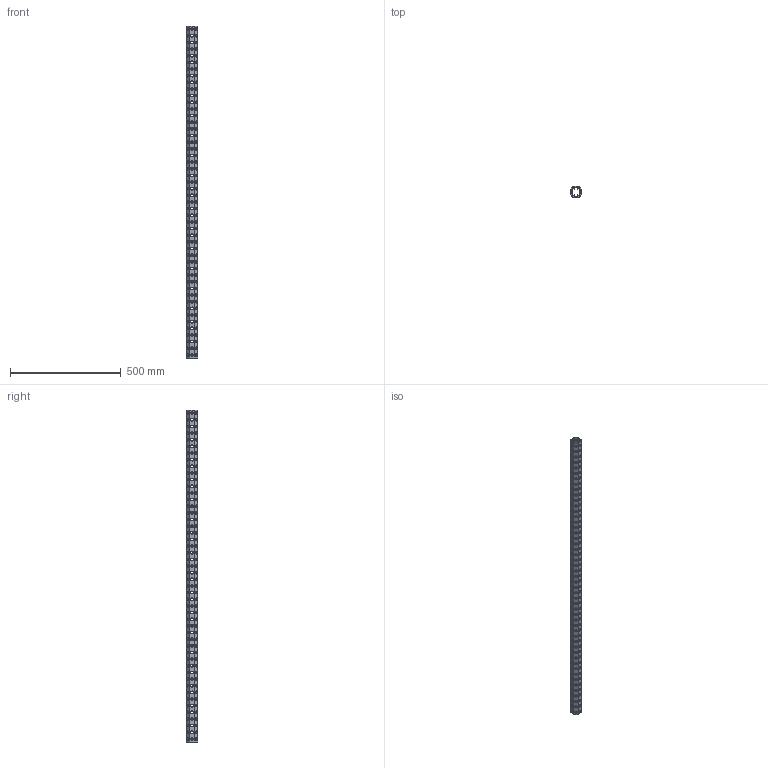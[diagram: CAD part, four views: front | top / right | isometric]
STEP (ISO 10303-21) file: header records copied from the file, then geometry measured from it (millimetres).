
FILE_DESCRIPTION(('CATIA V5 STEP Exchange'),'2;1');
FILE_NAME('U:\Room\唐宝山\EGT002\46-01-010279-01-EGT002-1498.stp','2021-08-24T01:27:32+00:00',('none'),('none'),'CATIA Version 5 Release 21 GA (IN-10)','CATIA V5 STEP AP203','none');
FILE_SCHEMA(('CONFIG_CONTROL_DESIGN'));
Products named in the file (1): 46-01-010279-01-EGT002-1498
Bounding box: 50 x 50 x 1498 mm (x, y, z)
Volume: 1067248.6 mm3; surface area: 514986.6 mm2
Topology: 1 solids, 1 shells, 2084 faces, 5746 edges, 3564 vertices
Faces by surface type: cone 1200, cylinder 858, plane 26
Entity records: 84889 total; most frequent: CARTESIAN_POINT 34360, ORIENTED_EDGE 11492, DIRECTION 8138, EDGE_CURVE 5746, AXIS2_PLACEMENT_3D 3825, VERTEX_POINT 3564, EDGE_LOOP 2786, VECTOR 2230
